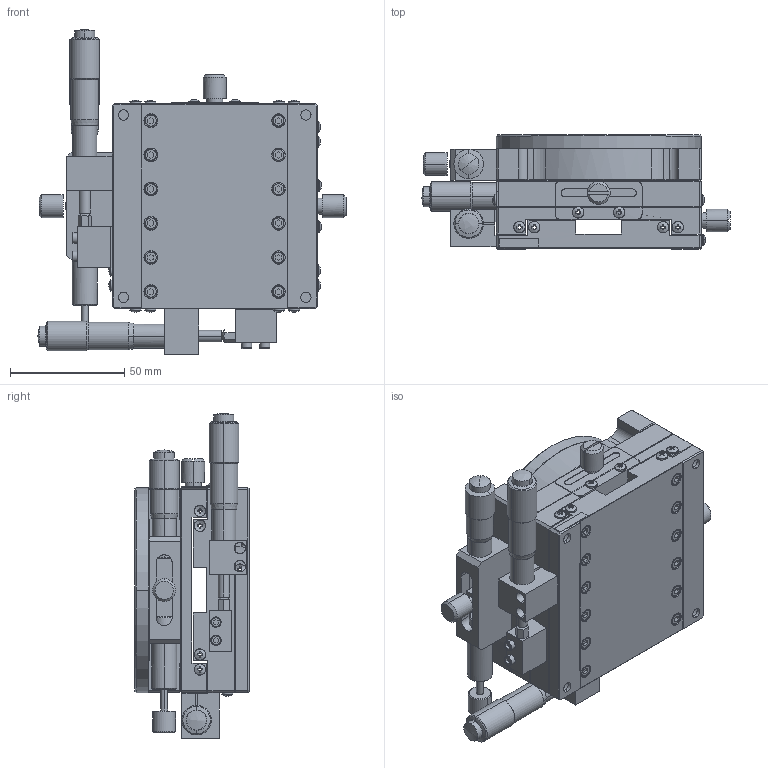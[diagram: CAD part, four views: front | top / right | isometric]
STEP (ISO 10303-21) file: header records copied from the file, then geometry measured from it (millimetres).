
FILE_DESCRIPTION (( 'STEP AP214' ), '1' );
FILE_NAME ('RD90.STEP', '2022-09-12T08:37:36', ( '' ), ( '' ), 'SwSTEP 2.0', 'SolidWorks 2017', '' );
FILE_SCHEMA (( 'AUTOMOTIVE_DESIGN' ));
Length unit declared in the file: millimetre
Products named in the file (1): RD90
Bounding box: 135.1 x 50 x 142.43 mm (x, y, z)
Surface area: 109171.9 mm2 (no closed solid volume)
Topology: 0 solids, 39 shells, 893 faces, 2641 edges, 1788 vertices
Faces by surface type: plane 526, cylinder 185, cone 122, bspline 58, torus 2
Entity records: 40263 total; most frequent: CARTESIAN_POINT 17847, ORIENTED_EDGE 4528, DIRECTION 4149, EDGE_CURVE 2618, VERTEX_POINT 1788, LINE 1407, VECTOR 1407, AXIS2_PLACEMENT_3D 1371
